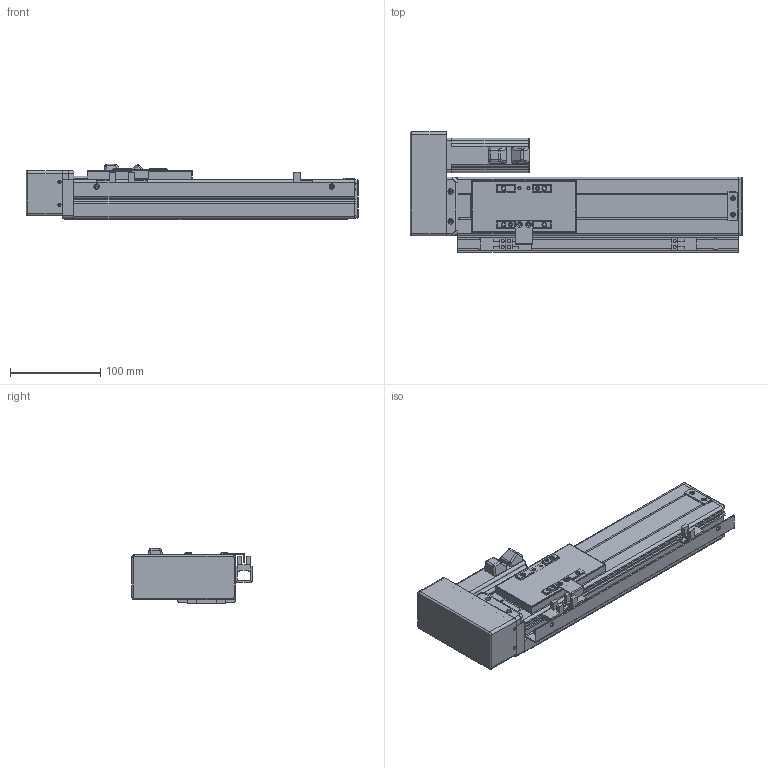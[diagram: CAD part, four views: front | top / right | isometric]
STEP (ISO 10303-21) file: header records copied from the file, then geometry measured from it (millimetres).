
FILE_DESCRIPTION (( 'STEP AP203' ), '1' );
FILE_NAME ('VT6-L10-C-S160-BR-P10-D4.STEP', '2015-10-26T06:15:19', ( '' ), ( '' ), 'SwSTEP 2.0', 'SolidWorks 2013', '' );
FILE_SCHEMA (( 'CONFIG_CONTROL_DESIGN' ));
Length unit declared in the file: millimetre
Products named in the file (17): VT6-L10-C-S160-BR-P10-D4; EE-XS674; ET6-BC耜啣_160; T6-裔啣; T6-揤輸; T6-綴傷裔; ET6-BLRM絳寢_俴最160; ET6-BLRM滅鳥湍_160; ET6-BLRM佪裝_160; T6-BMLRヶ傷裔; T6-BRL萇儂假蚾啣; T6-覜茼え; ET6-BC癹弇羲壽羞_160; 侂狟100W MSMD012G1U; T6-賑雄殤; T6-BMRL肮祭湍謫欶; T6-BMRLヶ傷裔揤啣
Assembly tree (19 placements, depth 2):
  VT6-L10-C-S160-BR-P10-D4
    ET6-BC耜啣_160  x2
    T6-賑雄殤
    T6-裔啣
    T6-揤輸
    T6-綴傷裔
    ET6-BLRM絳寢_俴最160
    ET6-BLRM滅鳥湍_160
    ET6-BLRM佪裝_160
    T6-BMLRヶ傷裔
    T6-BMRLヶ傷裔揤啣
    T6-BMRL肮祭湍謫欶
    侂狟100W MSMD012G1U
    T6-BRL萇儂假蚾啣
    T6-覜茼え
    ET6-BC癹弇羲壽羞_160
    EE-XS674  x3
Bounding box: 367 x 133 x 61 mm (x, y, z)
Volume: 574321.6 mm3; surface area: 330479.1 mm2
Topology: 19 solids, 19 shells, 873 faces, 2304 edges, 1456 vertices
Faces by surface type: cylinder 399, plane 374, cone 46, torus 36, sphere 18
Entity records: 26805 total; most frequent: CARTESIAN_POINT 4513, DIRECTION 4462, ORIENTED_EDGE 4126, EDGE_CURVE 2063, AXIS2_PLACEMENT_3D 1625, VERTEX_POINT 1316, VECTOR 1212, LINE 1212
